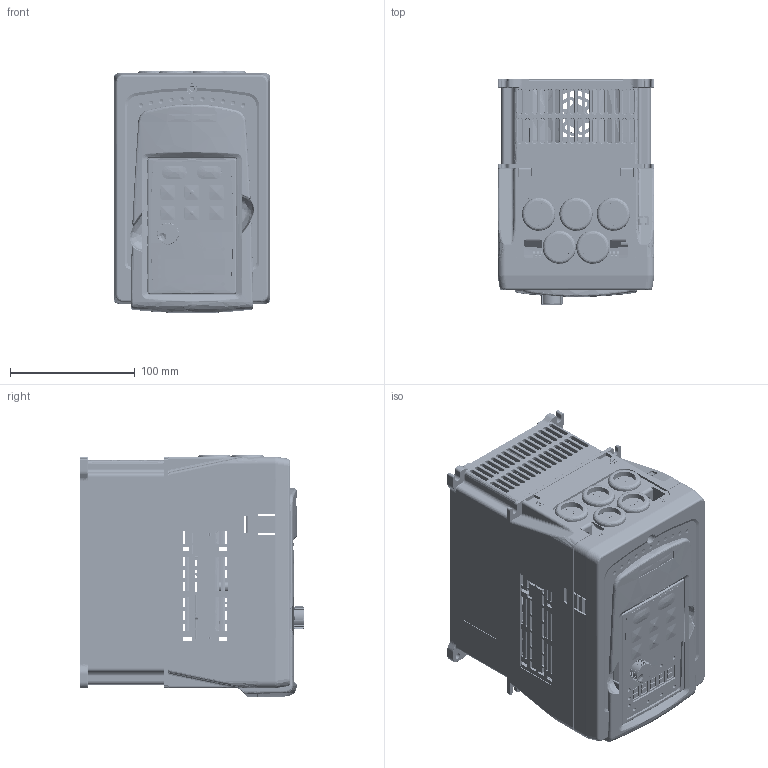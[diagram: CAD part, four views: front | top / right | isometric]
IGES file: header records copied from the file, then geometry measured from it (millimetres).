
Start section: SolidWorks IGES file using analytic representation for surfaces
Global section: file name: Z:\Products\VFD\UMI-B5\B5\UMI-[0015~0022]EU-B5_UMI-0007CU-B5\From INVT\GD310-2R2G-4\CAD Files\GD310-2R2G-4.IGS; native system: SolidWorks 2017; preprocessor: SolidWorks 2017; author: LaorB; date: 200329.152618; units: millimetre
Bounding box: 126 x 180.45 x 194.61 mm (x, y, z)
Surface area: 546392.6 mm2 (no closed solid volume)
Topology: 0 solids, 0 shells, 6757 faces, 62687 edges, 62640 vertices
Faces by surface type: bspline 4803, revolution 1954
